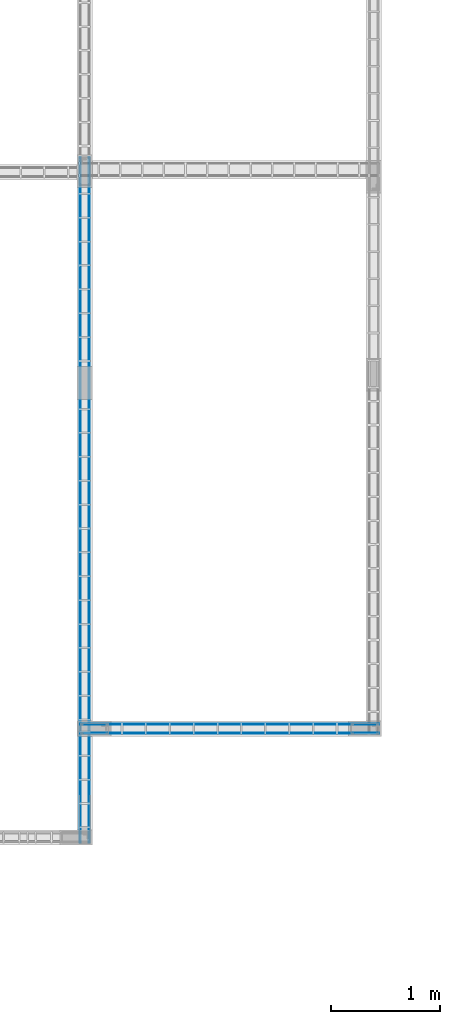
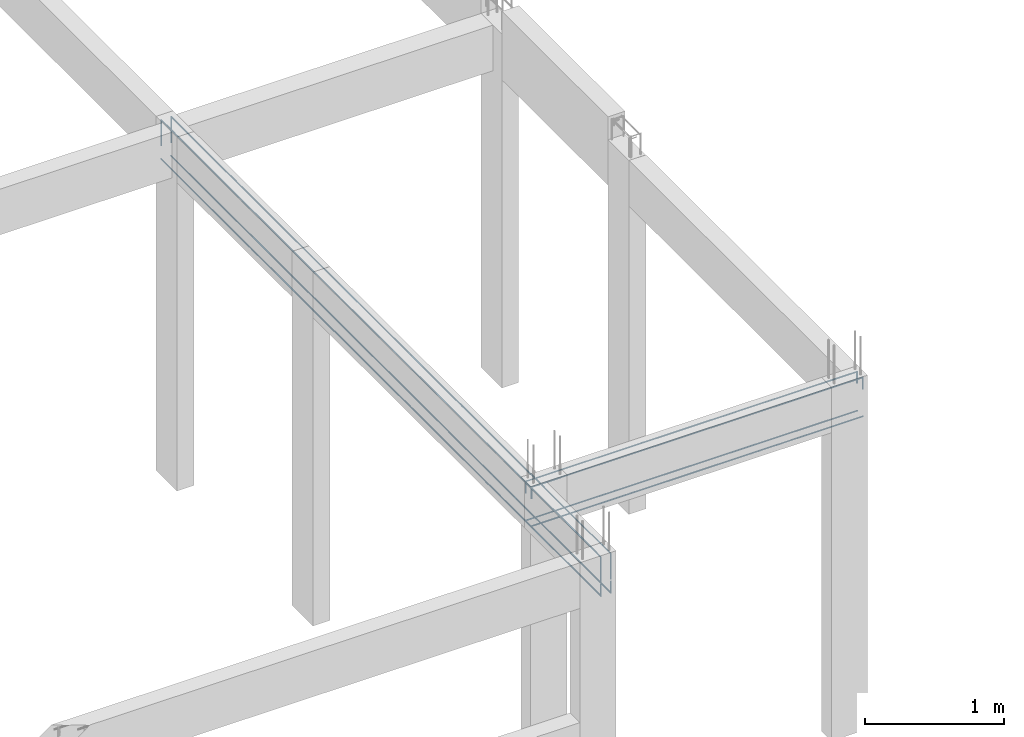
# One storey, part 18 of 236: 8 reinforcing bars.
"""IFC4 building model written with IfcOpenShell, lengths in centimetres."""

from ifc_helpers import new_model, entity, si_unit, derived_unit, frame, origin_with_axes, place, context, project, spatial, element, save


model = new_model("IFC4")

# Units and contexts
model_context = context("Model", 3, precision=1e-05, world=origin_with_axes(), identifier="Body")
ifc_project = project(units=[si_unit("LENGTHUNIT", "METRE", prefix="CENTI"), si_unit("VOLUMEUNIT", "CUBIC_METRE"), si_unit("AREAUNIT", "SQUARE_METRE"), si_unit("POWERUNIT", "WATT"), si_unit("LUMINOUSFLUXUNIT", "LUMEN"), si_unit("ELECTRICCURRENTUNIT", "AMPERE"), si_unit("PRESSUREUNIT", "PASCAL", prefix="KILO"), si_unit("MASSUNIT", "GRAM", prefix="KILO"), si_unit("PLANEANGLEUNIT", "RADIAN"), derived_unit("VOLUMETRICFLOWRATEUNIT", [(si_unit("LENGTHUNIT", "METRE"), 3), (si_unit("TIMEUNIT", "SECOND"), -1)])], contexts=[model_context])

# Site, building, storey
site_placement = place(None, frame((-4000.0, 0.0, 0.0), z_axis=(0.0, 0.0, 1.0), x_axis=(1.0, 0.0, 0.0)))
site = spatial("IfcSite", under=ifc_project, at=site_placement, Name="PADRÃO")
building_placement = place(site_placement, frame((0.0, 0.0, -14.0)))
building = spatial("IfcBuilding", under=site, at=building_placement, Name="CRECHE PRÉ-ESCOLA TIPO 2")
placement_1 = place(building_placement, origin_with_axes())
placement_2 = place(placement_1, frame((0.0, 0.0, 30.0), z_axis=(0.0, 0.0, 1.0), x_axis=(1.0, 0.0, 0.0)))
storey_placement = place(placement_2, frame((0.0, 0.0, 310.0), z_axis=(0.0, 0.0, 1.0), x_axis=(1.0, 0.0, 0.0)))
storey = spatial("IfcBuildingStorey", under=building, at=storey_placement, Name="TERREO", CompositionType="ELEMENT", Elevation=326.0)

# Reinforcing bars
for number, where, z_axis, x_axis, name in (
    (1, (1252.28, 519.11, -36.7), (0.0, 0.0, 1.0), (1.0, 0.0, 0.0), "V254 - Longitudinal inferior"),
    (2, (1252.28, 510.91, -36.7), (0.0, 0.0, 1.0), (1.0, 0.0, 0.0), "V254 - Longitudinal inferior"),
):
    element("IfcReinforcingBar", number, at=place(storey_placement, frame(where, z_axis=z_axis, x_axis=x_axis)), inside=storey, Name=name, BarLength=0.0, CrossSectionArea=5.0265482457e-05, NominalDiameter=0.8, PredefinedType="MAIN", context=model_context, shape_type="AdvancedSweptSolid", body=[
        entity("IfcSweptDiskSolid", entity("IfcCompositeCurve", [entity("IfcCompositeCurveSegment", "CONTINUOUS", True, entity("IfcPolyline", [entity("IfcCartesianPoint", [-137.56, 0.0, -0.4]), entity("IfcCartesianPoint", [137.56, 0.0, -0.4])]))], False), 0.4),
    ])
for number, where, z_axis, x_axis, name in (
    (3, (1252.28, 510.91, -2.49624973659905), (0.0, 0.0, 1.0), (1.0, 0.0, 0.0), "V254 - Longitudinal superior"),
    (4, (1252.28, 519.11, -2.49624973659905), (0.0, 0.0, 1.0), (1.0, 0.0, 0.0), "V254 - Longitudinal superior"),
):
    element("IfcReinforcingBar", number, at=place(storey_placement, frame(where, z_axis=z_axis, x_axis=x_axis)), inside=storey, Name=name, BarLength=0.0, CrossSectionArea=5.0265482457e-05, NominalDiameter=0.8, PredefinedType="MAIN", context=model_context, shape_type="AdvancedSweptSolid", body=[
        entity("IfcSweptDiskSolid", entity("IfcCompositeCurve", [entity("IfcCompositeCurveSegment", "CONTINUOUS", True, entity("IfcPolyline", [entity("IfcCartesianPoint", [-137.16, 0.0, -10.4037502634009]), entity("IfcCartesianPoint", [-137.16, 0.0, -0.403750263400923])])), entity("IfcCompositeCurveSegment", "CONTINUOUS", True, entity("IfcPolyline", [entity("IfcCartesianPoint", [-137.16, 0.0, -0.403750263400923]), entity("IfcCartesianPoint", [137.16, 0.0, -0.403750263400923])])), entity("IfcCompositeCurveSegment", "CONTINUOUS", True, entity("IfcPolyline", [entity("IfcCartesianPoint", [137.16, 0.0, -0.403750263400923]), entity("IfcCartesianPoint", [137.16, 0.0, -10.4037502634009])]))], False), 0.4),
    ])
for number, where, z_axis, x_axis, name in (
    (5, (1122.82, 725.7531248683, -27.1), (0.0, 0.0, 1.0), (1.0, 0.0, 0.0), "V276 - Longitudinal inferior"),
    (6, (1114.62, 725.7531248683, -27.1), (0.0, 0.0, 1.0), (1.0, 0.0, 0.0), "V276 - Longitudinal inferior"),
):
    element("IfcReinforcingBar", number, at=place(storey_placement, frame(where, z_axis=z_axis, x_axis=x_axis)), inside=storey, Name=name, BarLength=0.0, CrossSectionArea=5.0265482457e-05, NominalDiameter=0.8, PredefinedType="MAIN", context=model_context, shape_type="AdvancedSweptSolid", body=[
        entity("IfcSweptDiskSolid", entity("IfcCompositeCurve", [entity("IfcCompositeCurveSegment", "CONTINUOUS", True, entity("IfcPolyline", [entity("IfcCartesianPoint", [0.0, -315.3431248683, 0.0]), entity("IfcCartesianPoint", [0.0, -315.3431248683, -10.0])])), entity("IfcCompositeCurveSegment", "CONTINUOUS", True, entity("IfcPolyline", [entity("IfcCartesianPoint", [0.0, -315.3431248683, -10.0]), entity("IfcCartesianPoint", [0.0, 315.7468751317, -10.0])]))], False), 0.4),
    ])
for number, where, z_axis, x_axis, name in (
    (7, (1114.62, 725.755, -2.49624973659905), (0.0, 0.0, 1.0), (1.0, 0.0, 0.0), "V276 - Longitudinal superior"),
    (8, (1122.82, 725.755, -2.49624973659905), (0.0, 0.0, 1.0), (1.0, 0.0, 0.0), "V276 - Longitudinal superior"),
):
    element("IfcReinforcingBar", number, at=place(storey_placement, frame(where, z_axis=z_axis, x_axis=x_axis)), inside=storey, Name=name, BarLength=0.0, CrossSectionArea=5.0265482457e-05, NominalDiameter=0.8, PredefinedType="MAIN", context=model_context, shape_type="AdvancedSweptSolid", body=[
        entity("IfcSweptDiskSolid", entity("IfcCompositeCurve", [entity("IfcCompositeCurveSegment", "CONTINUOUS", True, entity("IfcPolyline", [entity("IfcCartesianPoint", [0.0, -315.345, -22.7014629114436]), entity("IfcCartesianPoint", [0.0, -315.345, -0.403750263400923])])), entity("IfcCompositeCurveSegment", "CONTINUOUS", True, entity("IfcPolyline", [entity("IfcCartesianPoint", [0.0, -315.345, -0.403750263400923]), entity("IfcCartesianPoint", [0.0, 315.345, -0.403750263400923])])), entity("IfcCompositeCurveSegment", "CONTINUOUS", True, entity("IfcPolyline", [entity("IfcCartesianPoint", [0.0, 315.345, -0.403750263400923]), entity("IfcCartesianPoint", [0.0, 315.345, -22.7014629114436])]))], False), 0.4),
    ])

save(model, "model.ifc")
